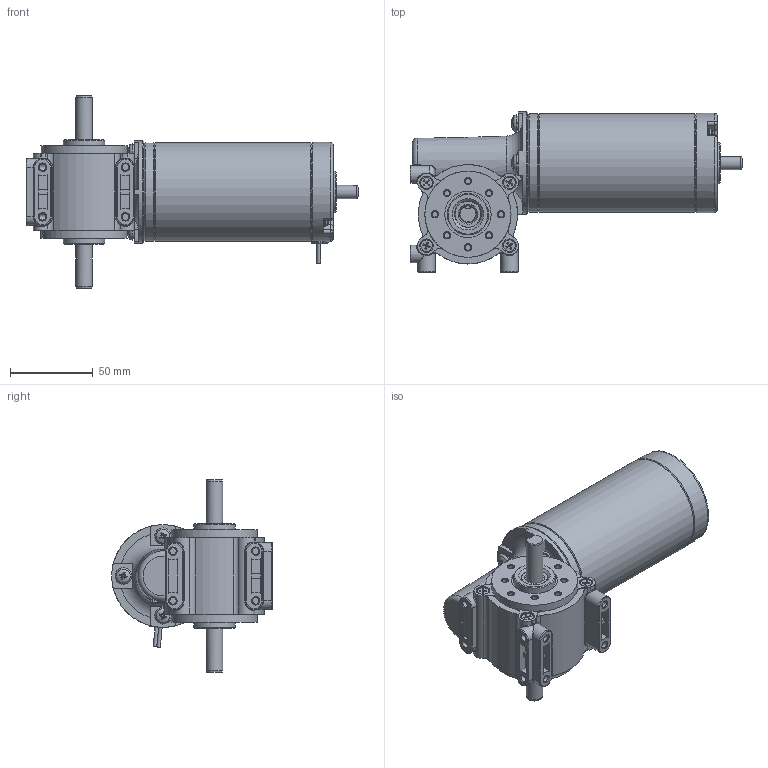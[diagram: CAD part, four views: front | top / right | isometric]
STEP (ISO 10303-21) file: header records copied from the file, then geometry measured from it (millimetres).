
FILE_DESCRIPTION(/* description */ (''),/* implementation_level */ '2;1');
FILE_NAME(/* name */ 'Z:\새 폴더\WORM GEARED RA6_3D\RA61ㅁㅁB.1.stp',/* time_stamp */ '2022-04-25T13:22:45+09:00',/* author */ ('umbro'),/* organization */ (''),/* preprocessor_version */ 'ST-DEVELOPER v17',/* originating_system */ 'Autodesk Inventor 2019',/* authorisation */ '');
FILE_SCHEMA (('AUTOMOTIVE_DESIGN { 1 0 10303 214 3 1 1 }'));
Length unit declared in the file: millimetre
Products named in the file (1): RA61ㅁㅁB
Bounding box: 200.5 x 97 x 116 mm (x, y, z)
Volume: 420105.7 mm3; surface area: 101432.9 mm2
Topology: 2 solids, 14 shells, 1036 faces, 2718 edges, 1786 vertices
Faces by surface type: plane 453, cylinder 267, cone 194, torus 75, bspline 36, sphere 11
Full cylindrical faces by diameter (mm): 2.2 x1, 3 x2, 3.242 x2, 3.4 x24, 3.571 x6, 4 x2, 4.1 x8, 4.134 x6, 4.2 x4, 4.51 x3, 4.6 x2, 5 x3, 7 x4, 8 x2, 8.2 x4, 9 x2, 10 x3, 16 x5, 22 x1, 24 x2, 24.9 x1, 25 x3, 28 x2, 30 x2, 32 x1, 35 x1, 47 x1, 51 x1, 52 x2, 53 x1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
Entity records: 36430 total; most frequent: CARTESIAN_POINT 9879, DIRECTION 5454, ORIENTED_EDGE 5410, EDGE_CURVE 2705, AXIS2_PLACEMENT_3D 2202, VERTEX_POINT 1786, EDGE_LOOP 1152, CIRCLE 1139
